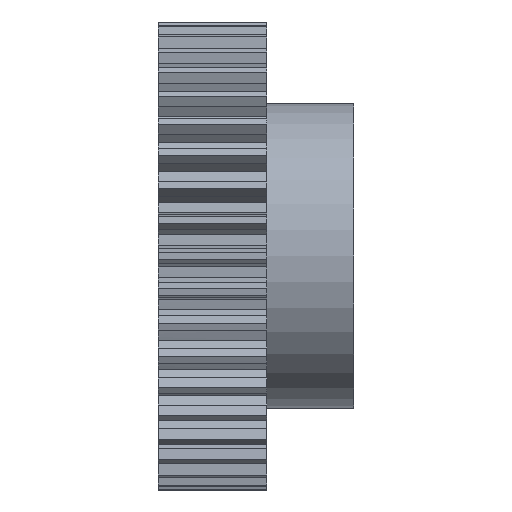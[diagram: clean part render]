
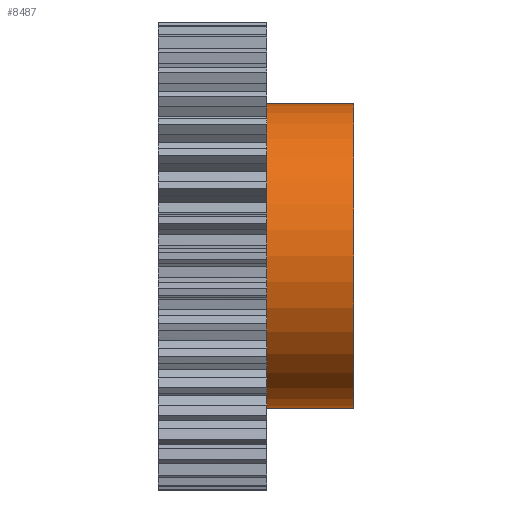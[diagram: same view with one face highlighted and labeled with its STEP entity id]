
A CAD part, front view. The second image highlights one B-rep face of the part: STEP entity #8487.
In plain terms, the highlighted cylindrical face has radius 35 mm (diameter 70 mm), a partial arc.
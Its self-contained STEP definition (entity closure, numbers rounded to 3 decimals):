
#549 = EDGE_CURVE ( 'NONE', #8117, #8147, #2777, .T. ) ;
#556 = EDGE_CURVE ( 'NONE', #8093, #8157, #2767, .T. ) ;
#1079 = EDGE_CURVE ( 'NONE', #8157, #8117, #3664, .T. ) ;
#1085 = EDGE_LOOP ( 'NONE', ( #8048, #8049, #8474, #8061 ) ) ;
#2729 = CARTESIAN_POINT ( 'NONE',  ( 12.5, 0., 0. ) ) ;
#2751 = DIRECTION ( 'NONE',  ( 0., 0., 1. ) ) ;
#2752 = DIRECTION ( 'NONE',  ( -1., 0., 0. ) ) ;
#2753 = AXIS2_PLACEMENT_3D ( 'NONE', #2760, #2752, #2751 ) ;
#2760 = CARTESIAN_POINT ( 'NONE',  ( 32.5, 0., 0. ) ) ;
#2762 = DIRECTION ( 'NONE',  ( 0., 0., 1. ) ) ;
#2763 = DIRECTION ( 'NONE',  ( 1., 0., 0. ) ) ;
#2766 = AXIS2_PLACEMENT_3D ( 'NONE', #2729, #2763, #2762 ) ;
#2767 = CIRCLE ( 'NONE', #2753, 35. ) ;
#2777 = CIRCLE ( 'NONE', #2766, 35. ) ;
#3660 = DIRECTION ( 'NONE',  ( -1., 0., 0. ) ) ;
#3661 = VECTOR ( 'NONE', #3660, 1000. ) ;
#3663 = CARTESIAN_POINT ( 'NONE',  ( 12.5, 0., 35. ) ) ;
#3664 = LINE ( 'NONE', #3663, #3661 ) ;
#6337 = VECTOR ( 'NONE', #6400, 1000. ) ;
#6349 = CARTESIAN_POINT ( 'NONE',  ( 32.5, 0., -35. ) ) ;
#6375 = LINE ( 'NONE', #6401, #6337 ) ;
#6388 = CARTESIAN_POINT ( 'NONE',  ( 12.5, 0., 35. ) ) ;
#6400 = DIRECTION ( 'NONE',  ( -1., 0., 0. ) ) ;
#6401 = CARTESIAN_POINT ( 'NONE',  ( 12.5, 0., -35. ) ) ;
#6428 = CARTESIAN_POINT ( 'NONE',  ( 12.5, 0., -35. ) ) ;
#6455 = CARTESIAN_POINT ( 'NONE',  ( 32.5, 0., 35. ) ) ;
#6878 = DIRECTION ( 'NONE',  ( 0., 0., 1. ) ) ;
#6879 = DIRECTION ( 'NONE',  ( -1., 0., 0. ) ) ;
#6882 = CYLINDRICAL_SURFACE ( 'NONE', #6887, 35. ) ;
#6887 = AXIS2_PLACEMENT_3D ( 'NONE', #6896, #6879, #6878 ) ;
#6892 = FACE_OUTER_BOUND ( 'NONE', #1085, .T. ) ;
#6896 = CARTESIAN_POINT ( 'NONE',  ( 12.5, 0., 0. ) ) ;
#8048 = ORIENTED_EDGE ( 'NONE', *, *, #8120, .F. ) ;
#8049 = ORIENTED_EDGE ( 'NONE', *, *, #556, .T. ) ;
#8061 = ORIENTED_EDGE ( 'NONE', *, *, #549, .T. ) ;
#8093 = VERTEX_POINT ( 'NONE', #6349 ) ;
#8117 = VERTEX_POINT ( 'NONE', #6388 ) ;
#8120 = EDGE_CURVE ( 'NONE', #8093, #8147, #6375, .T. ) ;
#8147 = VERTEX_POINT ( 'NONE', #6428 ) ;
#8157 = VERTEX_POINT ( 'NONE', #6455 ) ;
#8474 = ORIENTED_EDGE ( 'NONE', *, *, #1079, .T. ) ;
#8487 = ADVANCED_FACE ( 'NONE', ( #6892 ), #6882, .T. ) ;
